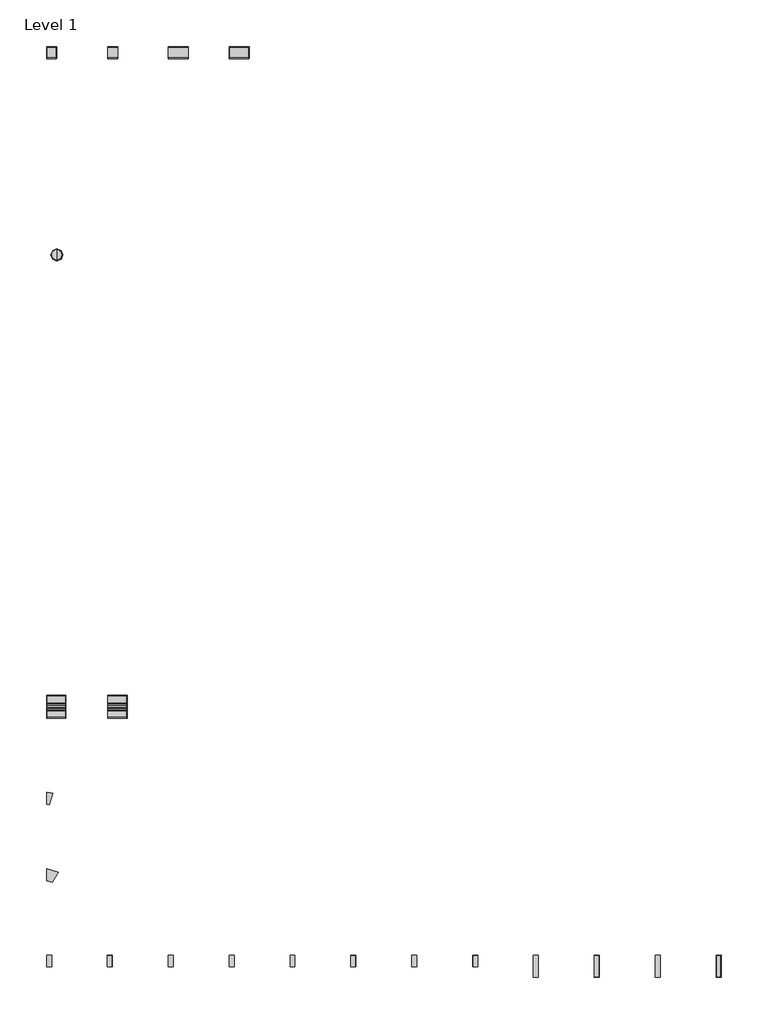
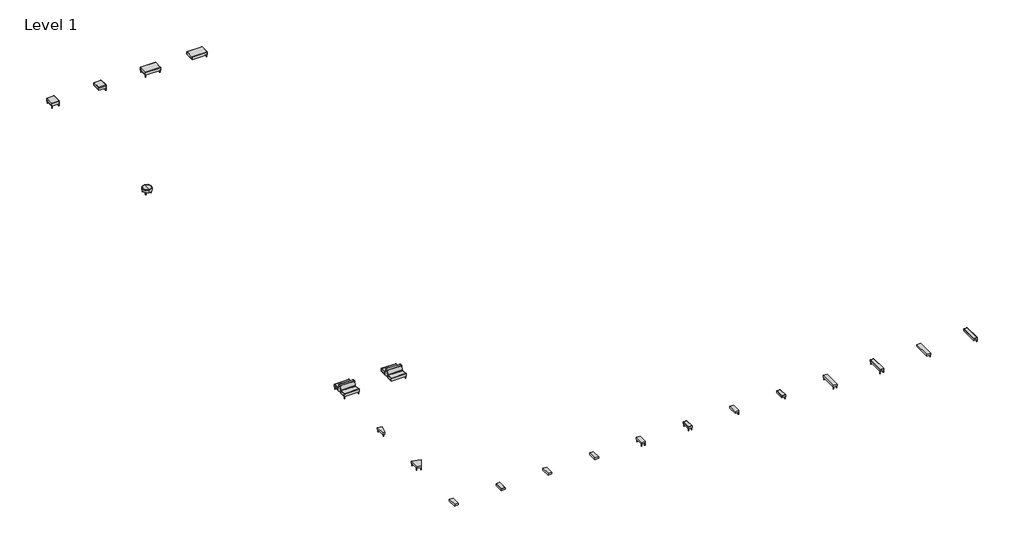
# One storey, incomplete: 21 furniture elements.
"""IFC4 building model written with IfcOpenShell, lengths in millimetres."""

from ifc_helpers import new_model, si_unit, origin, place, context, project, spatial, transform, mapped, element, save
from components import furniture_84c0f61d, furniture_cdac94fe, furniture_b870da70, furniture_616b9f79, furniture_7056fe7c, furniture_4275ec75, furniture_a7e0806c, furniture_db350dd1, fab125_ccfe8eac, fab125c_67cc7816, fab150_d09243b9, fab150c_0cfd3284, fal248a_1760e78e, fal248a_34353e28, fal248a_cc7b1910, fal248a_ccf3dbf3, fal248ac_28e8df74, fao130_a09f7fab, fat132914_p_fcdb5983, fat132914_s_f89065ec, fat135614_p_02217bb0, fat135614_s_2103d5af

model = new_model("IFC4")

# Units and contexts
model_context = context("Model", 3, world=origin())
ifc_project = project(units=[si_unit("LENGTHUNIT", "METRE", prefix="MILLI")], contexts=[model_context])

# Site, building, storey
site = spatial("IfcSite", under=ifc_project)
building = spatial("IfcBuilding", under=site)
storey = spatial("IfcBuildingStorey", under=building, Name="Level 1", Elevation=0.0)

# Furniture
placement = place(None, origin())
furniture_shape = furniture_84c0f61d(model_context)
element("IfcFurniture", 1, ObjectType="Stance_HC-Flora-Table_Straight : FAT13296C-P", at=placement, inside=storey, context=model_context, shape_type="MappedRepresentation", body=[
    mapped(furniture_shape, transform((-18513.7519884, -49179.3035898, 0.0), x_axis=(1.0, 0.0, 0.0), y_axis=(0.0, 1.0, 0.0), z_axis=(0.0, 0.0, 1.0))),
])
furniture_2_shape = furniture_cdac94fe(model_context)
element("IfcFurniture", 2, ObjectType="Stance_HC-Flora-Table_Straight : FAT132914E-P", at=placement, inside=storey, context=model_context, shape_type="MappedRepresentation", body=[
    mapped(furniture_2_shape, transform((4764.5747949, -49179.3035898, 0.0), x_axis=(1.0, 0.0, 0.0), y_axis=(0.0, 1.0, 0.0), z_axis=(0.0, 0.0, 1.0))),
])
furniture_3_shape = furniture_b870da70(model_context)
element("IfcFurniture", 3, ObjectType="Stance_HC-Flora-Table_Straight : FAT132914E-S", at=placement, inside=storey, context=model_context, shape_type="MappedRepresentation", body=[
    mapped(furniture_3_shape, transform((8644.2959254, -49179.3035898, 0.0), x_axis=(1.0, 0.0, 0.0), y_axis=(0.0, 1.0, 0.0), z_axis=(0.0, 0.0, 1.0))),
])
furniture_4_shape = furniture_616b9f79(model_context)
element("IfcFurniture", 4, ObjectType="Stance_HC-Flora-Table_Straight : FAT13296C-S", at=placement, inside=storey, context=model_context, shape_type="MappedRepresentation", body=[
    mapped(furniture_4_shape, transform((-14634.0308578, -49179.3035898, 0.0), x_axis=(1.0, 0.0, 0.0), y_axis=(0.0, 1.0, 0.0), z_axis=(0.0, 0.0, 1.0))),
])
furniture_5_shape = furniture_7056fe7c(model_context)
element("IfcFurniture", 5, ObjectType="Stance_HC-Flora-Table_Straight : FAT135614E-P", at=placement, inside=storey, context=model_context, shape_type="MappedRepresentation", body=[
    mapped(furniture_5_shape, transform((20283.459317, -49179.3035898, 0.0), x_axis=(1.0, 0.0, 0.0), y_axis=(0.0, 1.0, 0.0), z_axis=(0.0, 0.0, 1.0))),
])
furniture_6_shape = furniture_4275ec75(model_context)
element("IfcFurniture", 6, ObjectType="Stance_HC-Flora-Table_Straight : FAT135614E-S", at=placement, inside=storey, context=model_context, shape_type="MappedRepresentation", body=[
    mapped(furniture_6_shape, transform((24163.1804476, -49179.3035898, 0.0), x_axis=(1.0, 0.0, 0.0), y_axis=(0.0, 1.0, 0.0), z_axis=(0.0, 0.0, 1.0))),
])
element("IfcFurniture", 7, ObjectType="Stance_HC-Flora-Table_Straight : FAT13566C-P", at=placement, inside=storey, context=model_context, shape_type="MappedRepresentation", body=[
    mapped(furniture_shape, transform((-10754.3097273, -49179.3035898, 0.0), x_axis=(1.0, 0.0, 0.0), y_axis=(0.0, 1.0, 0.0), z_axis=(0.0, 0.0, 1.0))),
])
element("IfcFurniture", 8, ObjectType="Stance_HC-Flora-Table_Straight : FAT13566C-S", at=placement, inside=storey, context=model_context, shape_type="MappedRepresentation", body=[
    mapped(furniture_shape, transform((-6874.5885968, -49179.3035898, 0.0), x_axis=(1.0, 0.0, 0.0), y_axis=(0.0, 1.0, 0.0), z_axis=(0.0, 0.0, 1.0))),
])
furniture_7_shape = furniture_a7e0806c(model_context)
element("IfcFurniture", 9, ObjectType="Stance_HC-Flora-Table_Curve_15 : FATR15WC-P", at=placement, inside=storey, context=model_context, shape_type="MappedRepresentation", body=[
    mapped(furniture_7_shape, transform((-18513.7519884, -38824.2773011, 0.0), x_axis=(1.0, 0.0, 0.0), y_axis=(0.0, 1.0, 0.0), z_axis=(0.0, 0.0, 1.0))),
])
furniture_8_shape = furniture_db350dd1(model_context)
element("IfcFurniture", 10, ObjectType="Stance_HC-Flora-Table_Curve_30 : FATR30WC-P", at=placement, inside=storey, context=model_context, shape_type="MappedRepresentation", body=[
    mapped(furniture_8_shape, transform((-18513.7519884, -43702.133558, 0.0), x_axis=(1.0, 0.0, 0.0), y_axis=(0.0, 1.0, 0.0), z_axis=(0.0, 0.0, 1.0))),
])
fab125_shape = fab125_ccfe8eac(model_context)
element("IfcFurniture", 11, ObjectType="Stance_HC-Flora-Bench_Straight : FAB125", at=placement, inside=storey, context=model_context, shape_type="MappedRepresentation", body=[
    mapped(fab125_shape, transform((-18513.7519884, 8718.9757582, 0.0), x_axis=(1.0, 0.0, 0.0), y_axis=(0.0, 1.0, 0.0), z_axis=(0.0, 0.0, 1.0))),
])
fab125c_shape = fab125c_67cc7816(model_context)
element("IfcFurniture", 12, ObjectType="Stance_HC-Flora-Bench_Straight : FAB125C", at=placement, inside=storey, context=model_context, shape_type="MappedRepresentation", body=[
    mapped(fab125c_shape, transform((-14612.9228223, 8718.9757582, 0.0), x_axis=(1.0, 0.0, 0.0), y_axis=(0.0, 1.0, 0.0), z_axis=(0.0, 0.0, 1.0))),
])
fab150_shape = fab150_d09243b9(model_context)
element("IfcFurniture", 13, ObjectType="Stance_HC-Flora-Bench_Straight : FAB150", at=placement, inside=storey, context=model_context, shape_type="MappedRepresentation", body=[
    mapped(fab150_shape, transform((-10754.3097273, 8718.9757582, 0.0), x_axis=(1.0, 0.0, 0.0), y_axis=(0.0, 1.0, 0.0), z_axis=(0.0, 0.0, 1.0))),
])
fab150c_shape = fab150c_0cfd3284(model_context)
element("IfcFurniture", 14, ObjectType="Stance_HC-Flora-Bench_Straight : FAB150C", at=placement, inside=storey, context=model_context, shape_type="MappedRepresentation", body=[
    mapped(fab150c_shape, transform((-6874.5885968, 8718.9757582, 0.0), x_axis=(1.0, 0.0, 0.0), y_axis=(0.0, 1.0, 0.0), z_axis=(0.0, 0.0, 1.0))),
])
fal248a_shape = fal248a_1760e78e(model_context)
fal248a_2_shape = fal248a_34353e28(model_context)
fal248a_3_shape = fal248a_cc7b1910(model_context)
fal248a_4_shape = fal248a_ccf3dbf3(model_context)
element("IfcFurniture", 15, ObjectType="Stance_HC-Flora-Seat_Straight-Double_Side : FAL248A", at=placement, inside=storey, context=model_context, shape_type="MappedRepresentation", body=[
    mapped(fal248a_shape, transform((-18513.7519884, -33357.8378349, 0.0), x_axis=(1.0, 0.0, 0.0), y_axis=(0.0, 1.0, 0.0), z_axis=(0.0, 0.0, 1.0))),
    mapped(fal248a_2_shape, transform((-18513.7519884, -33357.8378349, 0.0), x_axis=(1.0, 0.0, 0.0), y_axis=(0.0, 1.0, 0.0), z_axis=(0.0, 0.0, 1.0))),
    mapped(fal248a_3_shape, transform((-18513.7519884, -33357.8378349, 0.0), x_axis=(1.0, 0.0, 0.0), y_axis=(0.0, 1.0, 0.0), z_axis=(0.0, 0.0, 1.0))),
    mapped(fal248a_4_shape, transform((-18513.7519884, -33357.8378349, 0.0), x_axis=(1.0, 0.0, 0.0), y_axis=(0.0, 1.0, 0.0), z_axis=(0.0, 0.0, 1.0))),
])
fal248ac_shape = fal248ac_28e8df74(model_context)
element("IfcFurniture", 16, ObjectType="Stance_HC-Flora-Seat_Straight-Double_Side : FAL248AC", at=placement, inside=storey, context=model_context, shape_type="MappedRepresentation", body=[
    mapped(fal248ac_shape, transform((-14612.9228223, -33357.8378349, 0.0), x_axis=(1.0, 0.0, 0.0), y_axis=(0.0, 1.0, 0.0), z_axis=(0.0, 0.0, 1.0))),
    mapped(fal248a_3_shape, transform((-14612.9228223, -33357.8378349, 0.0), x_axis=(1.0, 0.0, 0.0), y_axis=(0.0, 1.0, 0.0), z_axis=(0.0, 0.0, 1.0))),
    mapped(fal248a_4_shape, transform((-14612.9228223, -33357.8378349, 0.0), x_axis=(1.0, 0.0, 0.0), y_axis=(0.0, 1.0, 0.0), z_axis=(0.0, 0.0, 1.0))),
])
fao130_shape = fao130_a09f7fab(model_context)
element("IfcFurniture", 17, ObjectType="Stance_HC-Flora-Round_Otto : FAO130", at=placement, inside=storey, context=model_context, shape_type="MappedRepresentation", body=[
    mapped(fao130_shape, transform((-17857.4341792, -4561.9315207, 0.0), x_axis=(1.0, 0.0, 0.0), y_axis=(0.0, 1.0, 0.0), z_axis=(0.0, 0.0, 1.0))),
])
fat132914_p_shape = fat132914_p_fcdb5983(model_context)
element("IfcFurniture", 18, ObjectType="Stance_HC-Flora-Table_Straight : FAT132914-P", at=placement, inside=storey, context=model_context, shape_type="MappedRepresentation", body=[
    mapped(fat132914_p_shape, transform((-2994.8674662, -49179.3035898, 0.0), x_axis=(1.0, 0.0, 0.0), y_axis=(0.0, 1.0, 0.0), z_axis=(0.0, 0.0, 1.0))),
])
fat132914_s_shape = fat132914_s_f89065ec(model_context)
element("IfcFurniture", 19, ObjectType="Stance_HC-Flora-Table_Straight : FAT132914-S", at=placement, inside=storey, context=model_context, shape_type="MappedRepresentation", body=[
    mapped(fat132914_s_shape, transform((884.8536643, -49179.3035898, 0.0), x_axis=(1.0, 0.0, 0.0), y_axis=(0.0, 1.0, 0.0), z_axis=(0.0, 0.0, 1.0))),
])
fat135614_p_shape = fat135614_p_02217bb0(model_context)
element("IfcFurniture", 20, ObjectType="Stance_HC-Flora-Table_Straight : FAT135614-P", at=placement, inside=storey, context=model_context, shape_type="MappedRepresentation", body=[
    mapped(fat135614_p_shape, transform((12524.017056, -49179.3035898, 0.0), x_axis=(1.0, 0.0, 0.0), y_axis=(0.0, 1.0, 0.0), z_axis=(0.0, 0.0, 1.0))),
])
fat135614_s_shape = fat135614_s_2103d5af(model_context)
element("IfcFurniture", 21, ObjectType="Stance_HC-Flora-Table_Straight : FAT135614-S", at=placement, inside=storey, context=model_context, shape_type="MappedRepresentation", body=[
    mapped(fat135614_s_shape, transform((16403.7381865, -49179.3035898, 0.0), x_axis=(1.0, 0.0, 0.0), y_axis=(0.0, 1.0, 0.0), z_axis=(0.0, 0.0, 1.0))),
])

save(model, "model.ifc")
